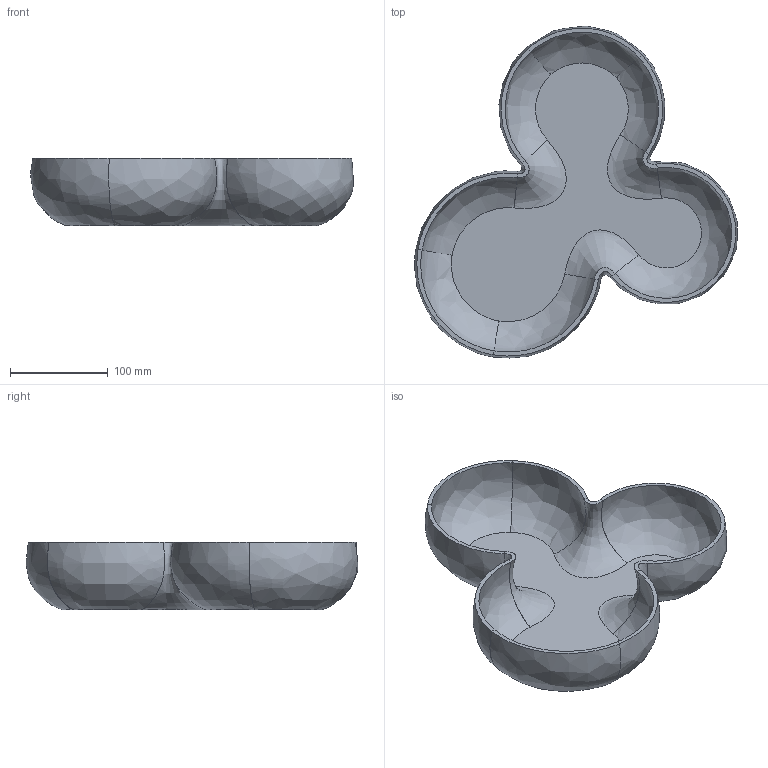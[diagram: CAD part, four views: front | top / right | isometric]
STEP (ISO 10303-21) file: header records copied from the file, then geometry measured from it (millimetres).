
FILE_DESCRIPTION(/* description */ (''),/* implementation_level */ '2;1');
FILE_NAME(/* name */ 'MCV',/* time_stamp */ '2025-07-10T11:30:56+02:00',/* author */ (''),/* organization */ (''),/* preprocessor_version */ 'ST-DEVELOPER v16.5',/* originating_system */ 'Rhino 7.37',/* authorisation */ '');
FILE_SCHEMA (('AUTOMOTIVE_DESIGN'));
Length unit declared in the file: centimetre
Products named in the file (1): Document
Bounding box: 331.13 x 340.52 x 69.17 mm (x, y, z)
Surface area: 247841.2 mm2 (no closed solid volume)
Topology: 0 solids, 1 shells, 33 faces, 83 edges, 43 vertices
Faces by surface type: bspline 31, plane 2
Entity records: 7329 total; most frequent: CARTESIAN_POINT 6860, ORIENTED_EDGE 147, EDGE_CURVE 83, B_SPLINE_CURVE_WITH_KNOTS 46, VERTEX_POINT 43, ADVANCED_FACE 33, FACE_OUTER_BOUND 33, EDGE_LOOP 33
